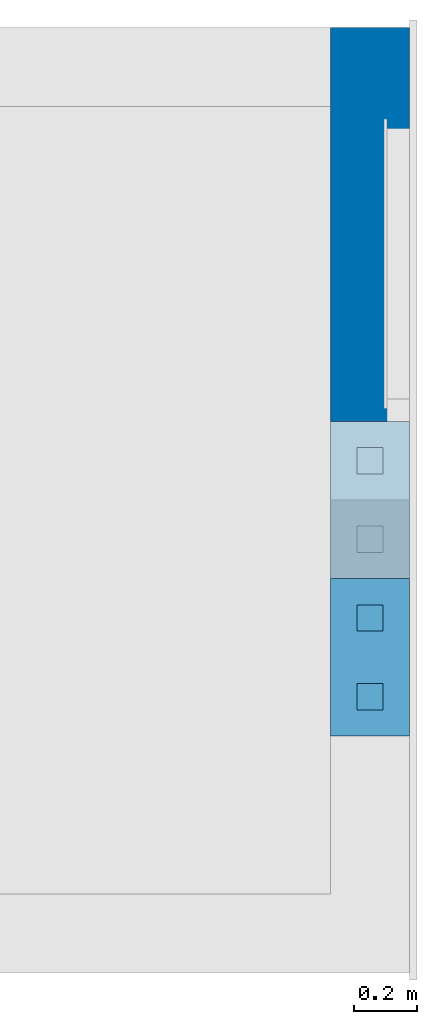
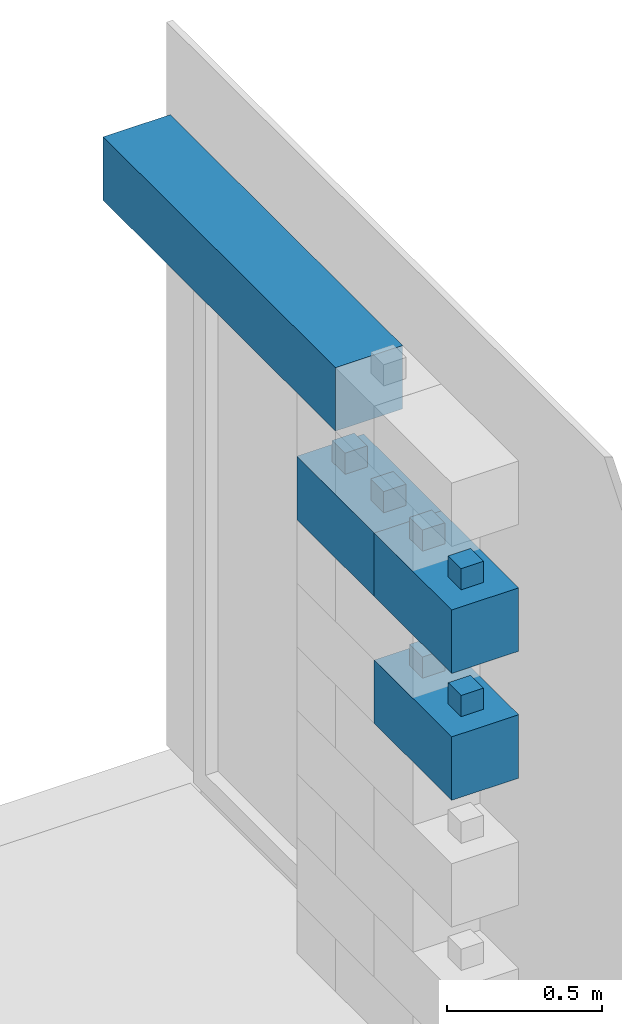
# One storey, part 1 of 8: 4 walls.
"""IFC4 building model written with IfcOpenShell, lengths in centimetres."""

import ifcopenshell
import ifcopenshell.guid

model = None  # the IFC model being written
_history = None  # IfcOwnerHistory: only IFC2X3 demands one
_inside = {}  # id of a spatial element -> (the spatial element, [elements in it])
_under = {}  # id of a project, library or spatial element -> (it, [spatial elements below it])
_declared = {}  # id of a project -> (the project, [libraries it declares])
_typed = {}  # id of a type object -> (the type object, [elements of that type])
_made_of = {}  # id of a material, layer set ... -> (it, [elements and type objects made of it])


def new_model(schema):
    """Start an empty IFC model of exactly this schema.

    Asked for "IFC4X3", IfcOpenShell would pick the latest addendum, in which some entities
    have other attributes; the version numbers below select the first issue.
    IFC2X3 requires an IfcOwnerHistory on every rooted entity: one is made here for all.
    """
    global model, _history
    if schema == "IFC4X3":
        model = ifcopenshell.file(schema_version=(4, 3, 0, 0))
    else:
        model = ifcopenshell.file(schema=schema)
    _inside.clear()
    _under.clear()
    _declared.clear()
    _typed.clear()
    _made_of.clear()
    _history = None
    if model.schema == "IFC2X3":
        org = make("IfcOrganization", Name="unknown")
        user = make(
            "IfcPersonAndOrganization",
            ThePerson=make("IfcPerson", FamilyName="unknown"),
            TheOrganization=org,
        )
        app = make(
            "IfcApplication",
            ApplicationDeveloper=org,
            Version="unknown",
            ApplicationFullName="unknown",
            ApplicationIdentifier="unknown",
        )
        _history = make(
            "IfcOwnerHistory",
            OwningUser=user,
            OwningApplication=app,
            ChangeAction="ADDED",
            CreationDate=0,
        )
    return model


def make(cls, **values):
    """One entity of the class cls with the attributes given. An attribute that is None is left unset."""
    return model.create_entity(
        cls, **{name: value for name, value in values.items() if value is not None}
    )


def entity(cls, *values):
    """Any entity or typed value of the class cls, its attributes in the order of the schema. None: left unset."""
    e = model.create_entity(cls)
    for i, value in enumerate(values):
        if value is not None:
            e[i] = value
    return e


def rooted(cls, **values):
    """An entity with a GlobalId (a new one), such as an element, a storey or a relation."""
    return make(cls, GlobalId=ifcopenshell.guid.new(), OwnerHistory=_history, **values)


def si_unit(unit_type, name, prefix=None):
    """IfcSIUnit, for example si_unit("LENGTHUNIT", "METRE", prefix="MILLI")."""
    return make("IfcSIUnit", UnitType=unit_type, Prefix=prefix, Name=name)


def converted_unit(unit_type, name, factor, base, dimensions=None, offset=None):
    """IfcConversionBasedUnit, such as the inch: factor (a typed value) times the base unit."""
    return make(
        "IfcConversionBasedUnit"
        if offset is None
        else "IfcConversionBasedUnitWithOffset",
        ConversionOffset=offset,
        Dimensions=None
        if dimensions is None
        else entity("IfcDimensionalExponents", *dimensions),
        UnitType=unit_type,
        Name=name,
        ConversionFactor=make(
            "IfcMeasureWithUnit", ValueComponent=factor, UnitComponent=base
        ),
    )


def assignment(units):
    """IfcUnitAssignment: the units of a project."""
    return None if units is None else make("IfcUnitAssignment", Units=units)


def point(xyz):
    """IfcCartesianPoint."""
    return None if xyz is None else make("IfcCartesianPoint", Coordinates=xyz)


def direction(xyz):
    """IfcDirection."""
    return None if xyz is None else make("IfcDirection", DirectionRatios=xyz)


def frame(location, z_axis=None, x_axis=None):
    """IfcAxis2Placement3D, a coordinate frame: its origin and axes. An axis left out is left unset."""
    return make(
        "IfcAxis2Placement3D",
        Location=point(location),
        Axis=direction(z_axis),
        RefDirection=direction(x_axis),
    )


def origin():
    """The frame at (0, 0, 0) with its axes left unset."""
    return frame((0.0, 0.0, 0.0))


def place(relative_to, where):
    """IfcLocalPlacement: puts the frame where relative to a parent placement (None: the world)."""
    return make(
        "IfcLocalPlacement", PlacementRelTo=relative_to, RelativePlacement=where
    )


def context(
    kind, dimensions, precision=None, world=None, true_north=None, identifier=None
):
    """IfcGeometricRepresentationContext, for example the 3D "Model" context."""
    return make(
        "IfcGeometricRepresentationContext",
        ContextIdentifier=identifier,
        ContextType=kind,
        CoordinateSpaceDimension=dimensions,
        Precision=precision,
        WorldCoordinateSystem=world,
        TrueNorth=true_north,
    )


def subcontext(parent, identifier, kind, view, scale=None):
    """IfcGeometricRepresentationSubContext, for example "Body" below "Model"."""
    return make(
        "IfcGeometricRepresentationSubContext",
        ContextIdentifier=identifier,
        ContextType=kind,
        ParentContext=parent,
        TargetScale=scale,
        TargetView=view,
    )


def project(units=None, contexts=None):
    """IfcProject with its units and contexts."""
    return rooted(
        "IfcProject",
        Name="project",
        RepresentationContexts=contexts,
        UnitsInContext=assignment(units),
    )


def spatial(cls, under=None, at=None, **own):
    """A site, building, storey or space (cls), placed at a placement, below another one or the project."""
    s = rooted(cls, ObjectPlacement=at, **own)
    if under is not None:
        _under.setdefault(under.id(), (under, []))[1].append(s)
    return s


def point_list(points):
    """IfcCartesianPointList2D or 3D."""
    cls = (
        "IfcCartesianPointList2D" if len(points[0]) == 2 else "IfcCartesianPointList3D"
    )
    return make(cls, CoordList=points)


def indexed_curve(points, segments=None, self_intersect=None):
    """IfcIndexedPolyCurve: lines and arcs through numbered points (the first is 1)."""
    return make(
        "IfcIndexedPolyCurve",
        Points=point_list(points),
        Segments=segments,
        SelfIntersect=self_intersect,
    )


def outline(outer, holes=None, kind="AREA"):
    """IfcArbitraryClosedProfileDef: a profile drawn as a closed curve; with holes, ...WithVoids."""
    if holes is None:
        return make("IfcArbitraryClosedProfileDef", ProfileType=kind, OuterCurve=outer)
    return make(
        "IfcArbitraryProfileDefWithVoids",
        ProfileType=kind,
        OuterCurve=outer,
        InnerCurves=holes,
    )


def extrude(swept, where, along, depth):
    """IfcExtrudedAreaSolid: the profile swept, set in the frame where, extruded along a direction by depth."""
    return make(
        "IfcExtrudedAreaSolid",
        SweptArea=swept,
        Position=where,
        ExtrudedDirection=direction(along),
        Depth=depth,
    )


def shape(context_of_items, identifier, shape_type, items):
    """IfcShapeRepresentation: the items that make up one representation, for example the "Body"."""
    return make(
        "IfcShapeRepresentation",
        ContextOfItems=context_of_items,
        RepresentationIdentifier=identifier,
        RepresentationType=shape_type,
        Items=items,
    )


def material(Name=None, Category=None):
    """IfcMaterial."""
    return make("IfcMaterial", Name=Name, Category=Category)


def made_of(thing, what):
    """Note that an element or type object is made of a material, layer set ...; save() writes the relation."""
    if what is not None:
        _made_of.setdefault(what.id(), (what, []))[1].append(thing)
    return thing


def type_object(cls, material=None, **own):
    """A type object (cls), such as IfcWallType, which elements share."""
    return made_of(rooted(cls, **own), material)


def element(
    cls,
    number,
    at=None,
    inside=None,
    cuts=None,
    type_object=None,
    material=None,
    context=None,
    identifier="Body",
    shape_type=None,
    held_by="IfcProductDefinitionShape",
    body=None,
    shapes=None,
    **own,
):
    """One element of the class cls, such as IfcWall. Its Tag is "e" and its number.

    at: its placement. inside: the storey or other place that contains it. cuts: it is an
    opening in that element (IfcRelVoidsElement). A single representation is given by context,
    identifier, shape_type and body (its items); several are given by shapes. held_by: the class
    of the entity that holds the representations. save() writes the other relations.
    """
    e = rooted(cls, Tag="e%d" % number, ObjectPlacement=at, **own)
    if body is not None:
        shapes = [shape(context, identifier, shape_type, body)]
    if shapes is not None:
        e.Representation = make(held_by, Representations=shapes)
    if inside is not None:
        _inside.setdefault(inside.id(), (inside, []))[1].append(e)
    if cuts is not None:
        rooted(
            "IfcRelVoidsElement", RelatingBuildingElement=cuts, RelatedOpeningElement=e
        )
    if type_object is not None:
        _typed.setdefault(type_object.id(), (type_object, []))[1].append(e)
    return made_of(e, material)


def aggregate(whole, parts):
    """IfcRelAggregates: a whole, such as a stair, and the parts it consists of."""
    return rooted("IfcRelAggregates", RelatingObject=whole, RelatedObjects=parts)


def save(model, path):
    """Write the relations noted so far, then the file.

    IfcRelAggregates (storeys below a building ...), IfcRelContainedInSpatialStructure (elements
    in a storey), IfcRelDefinesByType, IfcRelAssociatesMaterial and IfcRelDeclares: one each for
    every whole, place, type object, material and project.
    """
    for whole, parts in _under.values():
        aggregate(whole, parts)
    for where, things in _inside.values():
        rooted(
            "IfcRelContainedInSpatialStructure",
            RelatedElements=things,
            RelatingStructure=where,
        )
    for kind, things in _typed.values():
        rooted("IfcRelDefinesByType", RelatedObjects=things, RelatingType=kind)
    for what, things in _made_of.values():
        rooted("IfcRelAssociatesMaterial", RelatedObjects=things, RelatingMaterial=what)
    for by, libraries in _declared.values():
        rooted("IfcRelDeclares", RelatingContext=by, RelatedDefinitions=libraries)
    model.write(path)


model = new_model("IFC4")

# Units and contexts
model_context = context("Model", 3, precision=0.001, world=origin(), true_north=direction((0.0, 1.0)))
body_context = subcontext(model_context, "Body", "Model", "MODEL_VIEW")
ifc_project = project(units=[si_unit("LENGTHUNIT", "METRE", prefix="CENTI"), si_unit("AREAUNIT", "SQUARE_METRE"), si_unit("VOLUMEUNIT", "CUBIC_METRE"), converted_unit("PLANEANGLEUNIT", "DEGREE", entity("IfcPlaneAngleMeasure", 0.017453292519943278), si_unit("PLANEANGLEUNIT", "RADIAN"), dimensions=[0, 0, 0, 0, 0, 0, 0])], contexts=[model_context])

# Site, building, storey
site_placement = place(None, origin())
site = spatial("IfcSite", under=ifc_project, at=site_placement, Name="Default", CompositionType="ELEMENT")
building_placement = place(site_placement, origin())
building = spatial("IfcBuilding", under=site, at=building_placement, CompositionType="ELEMENT")
storey_placement = place(building_placement, frame((0.0, 0.0, -4.0)))
storey = spatial("IfcBuildingStorey", under=building, at=storey_placement, Name="L00__ABOVE Slab", CompositionType="ELEMENT", Elevation=-4.000000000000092)

# Walls
ifc_material_1 = material(Name="Miscellaneous__Timber Block__Triqbriq, X", Category="Miscellaneous")
wall_type_1 = type_object("IfcWallType", Name="Columns : wll_s__TIMBER BLOCK__Triqbriq, Full Width__wp : WS25", PredefinedType="SOLIDWALL", material=ifc_material_1)
wall_1_placement = place(storey_placement, frame((3156.8289147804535, 2203.5200309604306, 175.0), z_axis=(0.0, 0.0, 1.0), x_axis=(0.0, 1.0, 0.0)))
element("IfcWall", 1, at=wall_1_placement, inside=storey, type_object=wall_type_1, material=ifc_material_1, Name="Columns : wll_s__TIMBER BLOCK__Triqbriq, Full Width__wp : WS25", PredefinedType="SOLIDWALL", context=body_context, shape_type="SweptSolid", body=[
    extrude(outline(indexed_curve([(-4.166666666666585, -4.166666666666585), (4.166666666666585, -4.166666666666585), (4.166666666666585, 4.166666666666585), (-4.166666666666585, 4.166666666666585), (-4.166666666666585, -4.166666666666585)], self_intersect=False)), frame((12.500000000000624, -12.500000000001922, 16.666666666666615)), (0.0, 0.0, 1.0), 16.66666666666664),
    extrude(outline(indexed_curve([(-4.166666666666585, -4.166666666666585), (4.166666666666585, -4.166666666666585), (4.166666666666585, 4.166666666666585), (-4.166666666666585, 4.166666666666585), (-4.166666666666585, -4.166666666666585)], self_intersect=False)), frame((37.50000000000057, -12.500000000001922, 16.66666666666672)), (0.0, 0.0, 1.0), 16.66666666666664),
    extrude(outline(indexed_curve([(-4.166666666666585, -4.166666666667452), (4.166666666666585, -4.166666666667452), (4.166666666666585, 4.166666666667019), (-4.166666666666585, 4.166666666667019), (-4.166666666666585, -4.166666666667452)], self_intersect=False)), frame((4.166666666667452, -4.166666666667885, 8.333333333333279)), (0.0, 0.0, 1.0), 8.333333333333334),
    extrude(outline(indexed_curve([(-4.166666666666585, -4.166666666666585), (4.166666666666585, -4.166666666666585), (4.166666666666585, 4.166666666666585), (-4.166666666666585, 4.166666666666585), (-4.166666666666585, -4.166666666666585)], self_intersect=False)), frame((4.166666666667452, -20.833333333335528, 8.333333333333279)), (0.0, 0.0, 1.0), 8.333333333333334),
    extrude(outline(indexed_curve([(-4.166666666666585, -4.166666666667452), (4.166666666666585, -4.166666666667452), (4.166666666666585, 4.166666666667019), (-4.166666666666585, 4.166666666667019), (-4.166666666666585, -4.166666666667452)], self_intersect=False)), frame((45.833333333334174, -4.166666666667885, 8.333333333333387)), (0.0, 0.0, 1.0), 8.333333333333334),
    extrude(outline(indexed_curve([(-4.166666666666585, -4.166666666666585), (4.166666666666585, -4.166666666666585), (4.166666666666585, 4.166666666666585), (-4.166666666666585, 4.166666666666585), (-4.166666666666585, -4.166666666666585)], self_intersect=False)), frame((45.833333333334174, -20.833333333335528, 8.333333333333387)), (0.0, 0.0, 1.0), 8.333333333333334),
    extrude(outline(indexed_curve([(-8.33333333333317, -4.166666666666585), (8.333333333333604, -4.166666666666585), (8.333333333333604, 4.166666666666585), (-8.33333333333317, 4.166666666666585), (-8.33333333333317, -4.166666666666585)], self_intersect=False)), frame((25.0, -20.833333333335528, 8.333333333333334)), (0.0, 0.0, 1.0), 8.333333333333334),
    extrude(outline(indexed_curve([(-8.33333333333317, -4.166666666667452), (8.333333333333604, -4.166666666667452), (8.333333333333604, 4.166666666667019), (-8.33333333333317, 4.166666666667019), (-8.33333333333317, -4.166666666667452)], self_intersect=False)), frame((25.0, -4.166666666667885, 8.333333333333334)), (0.0, 0.0, 1.0), 8.333333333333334),
    extrude(outline(indexed_curve([(-24.999999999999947, -4.166666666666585), (24.999999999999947, -4.166666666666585), (24.999999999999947, 4.166666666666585), (-24.999999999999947, 4.166666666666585), (-24.999999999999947, -4.166666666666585)], self_intersect=False)), frame((25.0, -12.500000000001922, 8.333333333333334)), (0.0, 0.0, 1.0), 8.333333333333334),
    extrude(outline(indexed_curve([(-4.166666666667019, -12.50000000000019), (4.166666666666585, -12.50000000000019), (4.166666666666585, 12.500000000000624), (-4.166666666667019, 12.500000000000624), (-4.166666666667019, -12.50000000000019)], self_intersect=False)), frame((20.833333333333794, -12.500000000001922, 0.0)), (0.0, 0.0, 1.0), 8.333333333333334),
    extrude(outline(indexed_curve([(-4.166666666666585, -12.50000000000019), (4.166666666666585, -12.50000000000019), (4.166666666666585, 12.500000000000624), (-4.166666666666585, 12.500000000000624), (-4.166666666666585, -12.50000000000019)], self_intersect=False)), frame((29.166666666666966, -12.500000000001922, 0.0)), (0.0, 0.0, 1.0), 8.333333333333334),
    extrude(outline(indexed_curve([(-4.166666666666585, -12.50000000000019), (4.166666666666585, -12.50000000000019), (4.166666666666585, 12.500000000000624), (-4.166666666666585, 12.500000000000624), (-4.166666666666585, -12.50000000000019)], self_intersect=False)), frame((4.166666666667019, -12.500000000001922, 0.0)), (0.0, 0.0, 1.0), 8.333333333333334),
    extrude(outline(indexed_curve([(-4.166666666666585, -12.50000000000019), (4.166666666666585, -12.50000000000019), (4.166666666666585, 12.500000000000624), (-4.166666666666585, 12.500000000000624), (-4.166666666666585, -12.50000000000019)], self_intersect=False)), frame((45.83333333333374, -12.500000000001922, 0.0)), (0.0, 0.0, 1.0), 8.333333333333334),
    extrude(outline(indexed_curve([(-4.166666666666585, -4.166666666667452), (4.166666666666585, -4.166666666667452), (4.166666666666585, 4.166666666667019), (-4.166666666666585, 4.166666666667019), (-4.166666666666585, -4.166666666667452)], self_intersect=False)), frame((12.50000000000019, -4.166666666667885, 0.0)), (0.0, 0.0, 1.0), 24.999999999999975),
    extrude(outline(indexed_curve([(-4.166666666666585, -4.166666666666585), (4.166666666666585, -4.166666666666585), (4.166666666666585, 4.166666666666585), (-4.166666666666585, 4.166666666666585), (-4.166666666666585, -4.166666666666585)], self_intersect=False)), frame((12.50000000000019, -20.833333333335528, 0.0)), (0.0, 0.0, 1.0), 24.999999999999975),
    extrude(outline(indexed_curve([(-4.166666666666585, -4.166666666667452), (4.166666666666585, -4.166666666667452), (4.166666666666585, 4.166666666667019), (-4.166666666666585, 4.166666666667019), (-4.166666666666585, -4.166666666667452)], self_intersect=False)), frame((37.500000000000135, -4.166666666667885, 0.0)), (0.0, 0.0, 1.0), 24.999999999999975),
    extrude(outline(indexed_curve([(-4.166666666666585, -4.166666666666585), (4.166666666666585, -4.166666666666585), (4.166666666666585, 4.166666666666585), (-4.166666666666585, 4.166666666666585), (-4.166666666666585, -4.166666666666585)], self_intersect=False)), frame((37.500000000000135, -20.833333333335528, 0.0)), (0.0, 0.0, 1.0), 24.999999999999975),
    extrude(outline(indexed_curve([(-4.166666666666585, -12.50000000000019), (4.166666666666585, -12.50000000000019), (4.166666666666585, 12.500000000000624), (-4.166666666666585, 12.500000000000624), (-4.166666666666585, -12.50000000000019)], self_intersect=False)), frame((4.166666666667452, -12.500000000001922, 16.666666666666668)), (0.0, 0.0, 1.0), 8.333333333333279),
    extrude(outline(indexed_curve([(-4.166666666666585, -12.50000000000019), (4.166666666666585, -12.50000000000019), (4.166666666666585, 12.500000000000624), (-4.166666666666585, 12.500000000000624), (-4.166666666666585, -12.50000000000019)], self_intersect=False)), frame((20.833333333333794, -12.500000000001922, 16.66666666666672)), (0.0, 0.0, 1.0), 8.333333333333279),
    extrude(outline(indexed_curve([(-4.166666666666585, -12.50000000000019), (4.166666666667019, -12.50000000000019), (4.166666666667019, 12.500000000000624), (-4.166666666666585, 12.500000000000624), (-4.166666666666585, -12.50000000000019)], self_intersect=False)), frame((29.166666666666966, -12.500000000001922, 16.66666666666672)), (0.0, 0.0, 1.0), 8.333333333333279),
    extrude(outline(indexed_curve([(-4.166666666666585, -12.50000000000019), (4.166666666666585, -12.50000000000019), (4.166666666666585, 12.500000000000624), (-4.166666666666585, 12.500000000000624), (-4.166666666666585, -12.50000000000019)], self_intersect=False)), frame((45.833333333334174, -12.500000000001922, 16.666666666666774)), (0.0, 0.0, 1.0), 8.333333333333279),
])
wall_2_placement = place(storey_placement, frame((3156.8289147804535, 2253.5200309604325, 175.0), z_axis=(0.0, 0.0, 1.0), x_axis=(0.0, 1.0, 0.0)))
element("IfcWall", 2, at=wall_2_placement, inside=storey, type_object=wall_type_1, material=ifc_material_1, Name="Columns : wll_s__TIMBER BLOCK__Triqbriq, Full Width__wp : WS25", PredefinedType="SOLIDWALL", context=body_context, shape_type="SweptSolid", body=[
    extrude(outline(indexed_curve([(-4.166666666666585, -4.166666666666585), (4.166666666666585, -4.166666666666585), (4.166666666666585, 4.166666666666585), (-4.166666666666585, 4.166666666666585), (-4.166666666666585, -4.166666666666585)], self_intersect=False)), frame((12.500000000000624, -12.500000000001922, 16.666666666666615)), (0.0, 0.0, 1.0), 16.66666666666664),
    extrude(outline(indexed_curve([(-4.166666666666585, -4.166666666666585), (4.166666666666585, -4.166666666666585), (4.166666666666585, 4.166666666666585), (-4.166666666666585, 4.166666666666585), (-4.166666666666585, -4.166666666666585)], self_intersect=False)), frame((37.50000000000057, -12.500000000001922, 16.66666666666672)), (0.0, 0.0, 1.0), 16.66666666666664),
    extrude(outline(indexed_curve([(-4.166666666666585, -4.166666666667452), (4.166666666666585, -4.166666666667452), (4.166666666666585, 4.166666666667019), (-4.166666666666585, 4.166666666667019), (-4.166666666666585, -4.166666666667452)], self_intersect=False)), frame((4.166666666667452, -4.166666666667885, 8.333333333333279)), (0.0, 0.0, 1.0), 8.333333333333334),
    extrude(outline(indexed_curve([(-4.166666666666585, -4.166666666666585), (4.166666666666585, -4.166666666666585), (4.166666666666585, 4.166666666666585), (-4.166666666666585, 4.166666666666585), (-4.166666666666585, -4.166666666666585)], self_intersect=False)), frame((4.166666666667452, -20.833333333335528, 8.333333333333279)), (0.0, 0.0, 1.0), 8.333333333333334),
    extrude(outline(indexed_curve([(-4.166666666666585, -4.166666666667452), (4.166666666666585, -4.166666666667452), (4.166666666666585, 4.166666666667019), (-4.166666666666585, 4.166666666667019), (-4.166666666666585, -4.166666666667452)], self_intersect=False)), frame((45.833333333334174, -4.166666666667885, 8.333333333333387)), (0.0, 0.0, 1.0), 8.333333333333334),
    extrude(outline(indexed_curve([(-4.166666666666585, -4.166666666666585), (4.166666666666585, -4.166666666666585), (4.166666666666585, 4.166666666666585), (-4.166666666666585, 4.166666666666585), (-4.166666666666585, -4.166666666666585)], self_intersect=False)), frame((45.833333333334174, -20.833333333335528, 8.333333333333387)), (0.0, 0.0, 1.0), 8.333333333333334),
    extrude(outline(indexed_curve([(-8.333333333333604, -4.166666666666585), (8.33333333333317, -4.166666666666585), (8.33333333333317, 4.166666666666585), (-8.333333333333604, 4.166666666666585), (-8.333333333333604, -4.166666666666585)], self_intersect=False)), frame((25.0, -20.833333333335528, 8.333333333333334)), (0.0, 0.0, 1.0), 8.333333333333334),
    extrude(outline(indexed_curve([(-8.333333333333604, -4.166666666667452), (8.33333333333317, -4.166666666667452), (8.33333333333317, 4.166666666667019), (-8.333333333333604, 4.166666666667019), (-8.333333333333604, -4.166666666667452)], self_intersect=False)), frame((25.0, -4.166666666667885, 8.333333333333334)), (0.0, 0.0, 1.0), 8.333333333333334),
    extrude(outline(indexed_curve([(-24.999999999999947, -4.166666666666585), (24.999999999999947, -4.166666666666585), (24.999999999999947, 4.166666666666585), (-24.999999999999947, 4.166666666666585), (-24.999999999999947, -4.166666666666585)], self_intersect=False)), frame((25.0, -12.500000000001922, 8.333333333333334)), (0.0, 0.0, 1.0), 8.333333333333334),
    extrude(outline(indexed_curve([(-4.166666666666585, -12.50000000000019), (4.166666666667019, -12.50000000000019), (4.166666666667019, 12.500000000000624), (-4.166666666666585, 12.500000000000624), (-4.166666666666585, -12.50000000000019)], self_intersect=False)), frame((20.83333333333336, -12.500000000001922, 0.0)), (0.0, 0.0, 1.0), 8.333333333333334),
    extrude(outline(indexed_curve([(-4.166666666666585, -12.50000000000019), (4.166666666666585, -12.50000000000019), (4.166666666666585, 12.500000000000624), (-4.166666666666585, 12.500000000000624), (-4.166666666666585, -12.50000000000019)], self_intersect=False)), frame((29.166666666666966, -12.500000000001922, 0.0)), (0.0, 0.0, 1.0), 8.333333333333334),
    extrude(outline(indexed_curve([(-4.166666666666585, -12.50000000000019), (4.166666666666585, -12.50000000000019), (4.166666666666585, 12.500000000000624), (-4.166666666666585, 12.500000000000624), (-4.166666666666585, -12.50000000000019)], self_intersect=False)), frame((4.166666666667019, -12.500000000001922, 0.0)), (0.0, 0.0, 1.0), 8.333333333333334),
    extrude(outline(indexed_curve([(-4.166666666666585, -12.50000000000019), (4.166666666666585, -12.50000000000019), (4.166666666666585, 12.500000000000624), (-4.166666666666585, 12.500000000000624), (-4.166666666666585, -12.50000000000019)], self_intersect=False)), frame((45.83333333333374, -12.500000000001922, 0.0)), (0.0, 0.0, 1.0), 8.333333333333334),
    extrude(outline(indexed_curve([(-4.166666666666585, -4.166666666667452), (4.166666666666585, -4.166666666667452), (4.166666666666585, 4.166666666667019), (-4.166666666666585, 4.166666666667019), (-4.166666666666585, -4.166666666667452)], self_intersect=False)), frame((12.50000000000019, -4.166666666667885, 0.0)), (0.0, 0.0, 1.0), 24.999999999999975),
    extrude(outline(indexed_curve([(-4.166666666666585, -4.166666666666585), (4.166666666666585, -4.166666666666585), (4.166666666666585, 4.166666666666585), (-4.166666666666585, 4.166666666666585), (-4.166666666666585, -4.166666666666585)], self_intersect=False)), frame((12.50000000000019, -20.833333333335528, 0.0)), (0.0, 0.0, 1.0), 24.999999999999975),
    extrude(outline(indexed_curve([(-4.166666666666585, -4.166666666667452), (4.166666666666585, -4.166666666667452), (4.166666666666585, 4.166666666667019), (-4.166666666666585, 4.166666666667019), (-4.166666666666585, -4.166666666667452)], self_intersect=False)), frame((37.500000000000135, -4.166666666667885, 0.0)), (0.0, 0.0, 1.0), 24.999999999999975),
    extrude(outline(indexed_curve([(-4.166666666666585, -4.166666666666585), (4.166666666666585, -4.166666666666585), (4.166666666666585, 4.166666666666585), (-4.166666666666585, 4.166666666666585), (-4.166666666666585, -4.166666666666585)], self_intersect=False)), frame((37.500000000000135, -20.833333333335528, 0.0)), (0.0, 0.0, 1.0), 24.999999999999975),
    extrude(outline(indexed_curve([(-4.166666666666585, -12.50000000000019), (4.166666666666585, -12.50000000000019), (4.166666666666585, 12.500000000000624), (-4.166666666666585, 12.500000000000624), (-4.166666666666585, -12.50000000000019)], self_intersect=False)), frame((4.166666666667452, -12.500000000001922, 16.666666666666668)), (0.0, 0.0, 1.0), 8.333333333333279),
    extrude(outline(indexed_curve([(-4.166666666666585, -12.50000000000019), (4.166666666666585, -12.50000000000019), (4.166666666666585, 12.500000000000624), (-4.166666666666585, 12.500000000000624), (-4.166666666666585, -12.50000000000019)], self_intersect=False)), frame((20.833333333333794, -12.500000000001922, 16.66666666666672)), (0.0, 0.0, 1.0), 8.333333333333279),
    extrude(outline(indexed_curve([(-4.166666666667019, -12.50000000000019), (4.166666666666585, -12.50000000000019), (4.166666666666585, 12.500000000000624), (-4.166666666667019, 12.500000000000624), (-4.166666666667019, -12.50000000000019)], self_intersect=False)), frame((29.1666666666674, -12.500000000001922, 16.66666666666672)), (0.0, 0.0, 1.0), 8.333333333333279),
    extrude(outline(indexed_curve([(-4.166666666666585, -12.50000000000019), (4.166666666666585, -12.50000000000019), (4.166666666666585, 12.500000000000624), (-4.166666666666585, 12.500000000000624), (-4.166666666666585, -12.50000000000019)], self_intersect=False)), frame((45.833333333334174, -12.500000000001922, 16.666666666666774)), (0.0, 0.0, 1.0), 8.333333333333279),
])
wall_3_placement = place(storey_placement, frame((3156.8289147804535, 2203.5200309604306, 125.0), z_axis=(0.0, 0.0, 1.0), x_axis=(0.0, 1.0, 0.0)))
element("IfcWall", 3, at=wall_3_placement, inside=storey, type_object=wall_type_1, material=ifc_material_1, Name="Columns : wll_s__TIMBER BLOCK__Triqbriq, Full Width__wp : WS25", PredefinedType="SOLIDWALL", context=body_context, shape_type="SweptSolid", body=[
    extrude(outline(indexed_curve([(-4.166666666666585, -4.166666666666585), (4.166666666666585, -4.166666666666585), (4.166666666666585, 4.166666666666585), (-4.166666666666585, 4.166666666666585), (-4.166666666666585, -4.166666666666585)], self_intersect=False)), frame((12.500000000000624, -12.500000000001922, 16.666666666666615)), (0.0, 0.0, 1.0), 16.66666666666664),
    extrude(outline(indexed_curve([(-4.166666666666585, -4.166666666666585), (4.166666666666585, -4.166666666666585), (4.166666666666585, 4.166666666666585), (-4.166666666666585, 4.166666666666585), (-4.166666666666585, -4.166666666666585)], self_intersect=False)), frame((37.50000000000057, -12.500000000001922, 16.66666666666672)), (0.0, 0.0, 1.0), 16.66666666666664),
    extrude(outline(indexed_curve([(-4.166666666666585, -4.166666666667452), (4.166666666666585, -4.166666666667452), (4.166666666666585, 4.166666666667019), (-4.166666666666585, 4.166666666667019), (-4.166666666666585, -4.166666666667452)], self_intersect=False)), frame((4.166666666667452, -4.166666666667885, 8.333333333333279)), (0.0, 0.0, 1.0), 8.333333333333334),
    extrude(outline(indexed_curve([(-4.166666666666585, -4.166666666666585), (4.166666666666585, -4.166666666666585), (4.166666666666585, 4.166666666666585), (-4.166666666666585, 4.166666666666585), (-4.166666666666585, -4.166666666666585)], self_intersect=False)), frame((4.166666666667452, -20.833333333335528, 8.333333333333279)), (0.0, 0.0, 1.0), 8.333333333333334),
    extrude(outline(indexed_curve([(-4.166666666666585, -4.166666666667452), (4.166666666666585, -4.166666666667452), (4.166666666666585, 4.166666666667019), (-4.166666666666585, 4.166666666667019), (-4.166666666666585, -4.166666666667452)], self_intersect=False)), frame((45.833333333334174, -4.166666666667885, 8.333333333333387)), (0.0, 0.0, 1.0), 8.333333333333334),
    extrude(outline(indexed_curve([(-4.166666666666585, -4.166666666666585), (4.166666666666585, -4.166666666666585), (4.166666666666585, 4.166666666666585), (-4.166666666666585, 4.166666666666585), (-4.166666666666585, -4.166666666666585)], self_intersect=False)), frame((45.833333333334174, -20.833333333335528, 8.333333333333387)), (0.0, 0.0, 1.0), 8.333333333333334),
    extrude(outline(indexed_curve([(-8.33333333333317, -4.166666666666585), (8.333333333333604, -4.166666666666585), (8.333333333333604, 4.166666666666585), (-8.33333333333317, 4.166666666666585), (-8.33333333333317, -4.166666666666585)], self_intersect=False)), frame((25.0, -20.833333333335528, 8.333333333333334)), (0.0, 0.0, 1.0), 8.333333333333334),
    extrude(outline(indexed_curve([(-8.33333333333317, -4.166666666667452), (8.333333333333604, -4.166666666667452), (8.333333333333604, 4.166666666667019), (-8.33333333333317, 4.166666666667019), (-8.33333333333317, -4.166666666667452)], self_intersect=False)), frame((25.0, -4.166666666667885, 8.333333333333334)), (0.0, 0.0, 1.0), 8.333333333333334),
    extrude(outline(indexed_curve([(-24.999999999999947, -4.166666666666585), (24.999999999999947, -4.166666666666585), (24.999999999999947, 4.166666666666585), (-24.999999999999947, 4.166666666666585), (-24.999999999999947, -4.166666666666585)], self_intersect=False)), frame((25.0, -12.500000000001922, 8.333333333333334)), (0.0, 0.0, 1.0), 8.333333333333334),
    extrude(outline(indexed_curve([(-4.166666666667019, -12.50000000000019), (4.166666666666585, -12.50000000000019), (4.166666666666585, 12.500000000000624), (-4.166666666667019, 12.500000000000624), (-4.166666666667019, -12.50000000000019)], self_intersect=False)), frame((20.833333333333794, -12.500000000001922, 0.0)), (0.0, 0.0, 1.0), 8.333333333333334),
    extrude(outline(indexed_curve([(-4.166666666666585, -12.50000000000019), (4.166666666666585, -12.50000000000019), (4.166666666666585, 12.500000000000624), (-4.166666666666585, 12.500000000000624), (-4.166666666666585, -12.50000000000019)], self_intersect=False)), frame((29.166666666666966, -12.500000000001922, 0.0)), (0.0, 0.0, 1.0), 8.333333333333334),
    extrude(outline(indexed_curve([(-4.166666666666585, -12.50000000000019), (4.166666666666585, -12.50000000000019), (4.166666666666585, 12.500000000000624), (-4.166666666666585, 12.500000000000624), (-4.166666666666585, -12.50000000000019)], self_intersect=False)), frame((4.166666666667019, -12.500000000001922, 0.0)), (0.0, 0.0, 1.0), 8.333333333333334),
    extrude(outline(indexed_curve([(-4.166666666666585, -12.50000000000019), (4.166666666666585, -12.50000000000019), (4.166666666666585, 12.500000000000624), (-4.166666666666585, 12.500000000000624), (-4.166666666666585, -12.50000000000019)], self_intersect=False)), frame((45.83333333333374, -12.500000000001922, 0.0)), (0.0, 0.0, 1.0), 8.333333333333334),
    extrude(outline(indexed_curve([(-4.166666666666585, -4.166666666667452), (4.166666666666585, -4.166666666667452), (4.166666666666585, 4.166666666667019), (-4.166666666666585, 4.166666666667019), (-4.166666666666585, -4.166666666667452)], self_intersect=False)), frame((12.50000000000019, -4.166666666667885, 0.0)), (0.0, 0.0, 1.0), 24.999999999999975),
    extrude(outline(indexed_curve([(-4.166666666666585, -4.166666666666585), (4.166666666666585, -4.166666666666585), (4.166666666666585, 4.166666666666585), (-4.166666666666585, 4.166666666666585), (-4.166666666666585, -4.166666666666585)], self_intersect=False)), frame((12.50000000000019, -20.833333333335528, 0.0)), (0.0, 0.0, 1.0), 24.999999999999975),
    extrude(outline(indexed_curve([(-4.166666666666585, -4.166666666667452), (4.166666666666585, -4.166666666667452), (4.166666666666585, 4.166666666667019), (-4.166666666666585, 4.166666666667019), (-4.166666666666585, -4.166666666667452)], self_intersect=False)), frame((37.500000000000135, -4.166666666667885, 0.0)), (0.0, 0.0, 1.0), 24.999999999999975),
    extrude(outline(indexed_curve([(-4.166666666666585, -4.166666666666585), (4.166666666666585, -4.166666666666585), (4.166666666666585, 4.166666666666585), (-4.166666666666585, 4.166666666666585), (-4.166666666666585, -4.166666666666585)], self_intersect=False)), frame((37.500000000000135, -20.833333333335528, 0.0)), (0.0, 0.0, 1.0), 24.999999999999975),
    extrude(outline(indexed_curve([(-4.166666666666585, -12.50000000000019), (4.166666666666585, -12.50000000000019), (4.166666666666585, 12.500000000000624), (-4.166666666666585, 12.500000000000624), (-4.166666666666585, -12.50000000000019)], self_intersect=False)), frame((4.166666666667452, -12.500000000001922, 16.666666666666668)), (0.0, 0.0, 1.0), 8.333333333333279),
    extrude(outline(indexed_curve([(-4.166666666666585, -12.50000000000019), (4.166666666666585, -12.50000000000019), (4.166666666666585, 12.500000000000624), (-4.166666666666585, 12.500000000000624), (-4.166666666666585, -12.50000000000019)], self_intersect=False)), frame((20.833333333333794, -12.500000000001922, 16.66666666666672)), (0.0, 0.0, 1.0), 8.333333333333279),
    extrude(outline(indexed_curve([(-4.166666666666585, -12.50000000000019), (4.166666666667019, -12.50000000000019), (4.166666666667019, 12.500000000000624), (-4.166666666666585, 12.500000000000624), (-4.166666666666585, -12.50000000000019)], self_intersect=False)), frame((29.166666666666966, -12.500000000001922, 16.66666666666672)), (0.0, 0.0, 1.0), 8.333333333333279),
    extrude(outline(indexed_curve([(-4.166666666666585, -12.50000000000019), (4.166666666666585, -12.50000000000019), (4.166666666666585, 12.500000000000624), (-4.166666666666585, 12.500000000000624), (-4.166666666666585, -12.50000000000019)], self_intersect=False)), frame((45.833333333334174, -12.500000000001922, 16.666666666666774)), (0.0, 0.0, 1.0), 8.333333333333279),
])
ifc_material_2 = material(Name="_STRUCTURE__Wood Solid")
wall_type_2 = type_object("IfcWallType", Name="Structural Framing : wll_s__LINTEL__Triqbriq, Rectangular__wp : Wood", PredefinedType="SOLIDWALL", material=ifc_material_2)
wall_4_placement = place(storey_placement, frame((3156.8289147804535, 2278.52003096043, 225.0), z_axis=(0.0, 0.0, 1.0), x_axis=(0.0, 1.0, 0.0)))
element("IfcWall", 4, at=wall_4_placement, inside=storey, type_object=wall_type_2, material=ifc_material_2, Name="Structural Framing : wll_s__LINTEL__Triqbriq, Rectangular__wp : Wood", PredefinedType="SOLIDWALL", context=body_context, shape_type="SweptSolid", body=[
    extrude(outline(indexed_curve([(-75.00000000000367, -12.50000000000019), (75.00000000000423, -12.50000000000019), (75.0000000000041, 12.50000000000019), (-75.00000000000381, 12.499999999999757), (-75.00000000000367, -12.50000000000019)], self_intersect=False)), frame((75.0, -12.500000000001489, 0.0), z_axis=(0.0, 0.0, 1.0), x_axis=(-1.0, 0.0, 0.0)), (0.0, 0.0, 1.0), 25.0),
])

save(model, "model.ifc")
